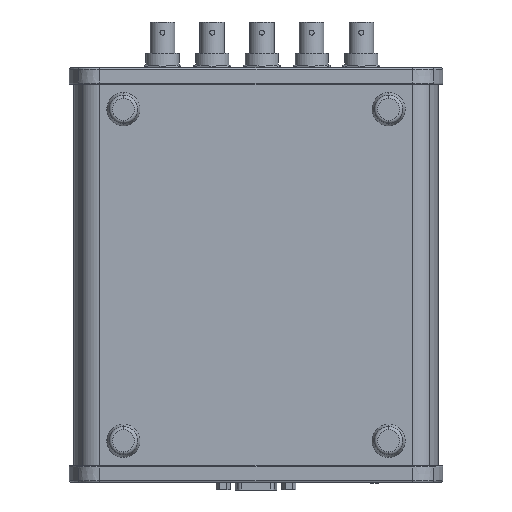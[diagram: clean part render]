
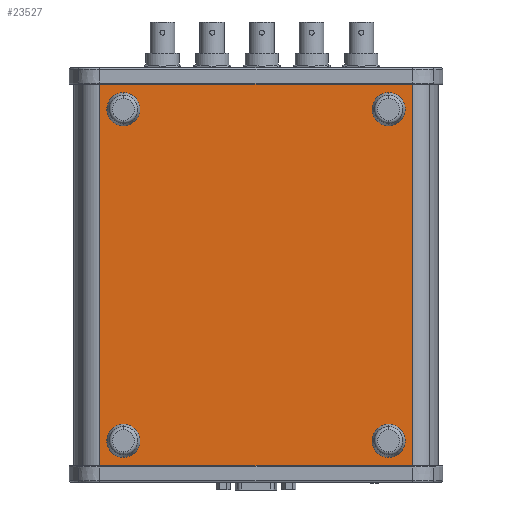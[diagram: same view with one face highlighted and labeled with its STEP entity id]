
A CAD part, front view. The second image highlights one B-rep face of the part: STEP entity #23527.
In plain terms, the highlighted planar face has unit normal (0, -1, 0).
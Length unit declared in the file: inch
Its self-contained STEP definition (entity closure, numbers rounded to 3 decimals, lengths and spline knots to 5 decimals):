
#3229=DIRECTION('',(1.,0.,0.));
#3230=VECTOR('',#3229,4.71985);
#3231=CARTESIAN_POINT('',(-2.35992,-0.6435,0.));
#3232=LINE('',#3231,#3230);
#3344=DIRECTION('',(1.,0.,0.));
#3345=VECTOR('',#3344,4.71985);
#3346=CARTESIAN_POINT('',(-2.35992,-0.6435,6.));
#3347=LINE('',#3346,#3345);
#3476=DIRECTION('',(0.,0.,-1.));
#3477=VECTOR('',#3476,6.);
#3478=CARTESIAN_POINT('',(2.35992,-0.6435,6.));
#3479=LINE('',#3478,#3477);
#3480=DIRECTION('',(0.,0.,-1.));
#3481=VECTOR('',#3480,6.);
#3482=CARTESIAN_POINT('',(-2.35992,-0.6435,6.));
#3483=LINE('',#3482,#3481);
#3484=CARTESIAN_POINT('',(2.,-0.6435,5.5));
#3485=DIRECTION('',(0.,1.,0.));
#3486=DIRECTION('',(0.,0.,1.));
#3487=AXIS2_PLACEMENT_3D('',#3484,#3485,#3486);
#3489=CARTESIAN_POINT('',(2.,-0.6435,5.5));
#3490=DIRECTION('',(0.,1.,0.));
#3491=DIRECTION('',(0.,0.,-1.));
#3492=AXIS2_PLACEMENT_3D('',#3489,#3490,#3491);
#3494=CARTESIAN_POINT('',(2.,-0.6435,0.5));
#3495=DIRECTION('',(0.,1.,0.));
#3496=DIRECTION('',(0.,0.,1.));
#3497=AXIS2_PLACEMENT_3D('',#3494,#3495,#3496);
#3499=CARTESIAN_POINT('',(2.,-0.6435,0.5));
#3500=DIRECTION('',(0.,1.,0.));
#3501=DIRECTION('',(0.,0.,-1.));
#3502=AXIS2_PLACEMENT_3D('',#3499,#3500,#3501);
#3504=CARTESIAN_POINT('',(-2.,-0.6435,5.5));
#3505=DIRECTION('',(0.,1.,0.));
#3506=DIRECTION('',(0.,0.,1.));
#3507=AXIS2_PLACEMENT_3D('',#3504,#3505,#3506);
#3509=CARTESIAN_POINT('',(-2.,-0.6435,5.5));
#3510=DIRECTION('',(0.,1.,0.));
#3511=DIRECTION('',(0.,0.,-1.));
#3512=AXIS2_PLACEMENT_3D('',#3509,#3510,#3511);
#3514=CARTESIAN_POINT('',(-2.,-0.6435,0.5));
#3515=DIRECTION('',(0.,1.,0.));
#3516=DIRECTION('',(0.,0.,1.));
#3517=AXIS2_PLACEMENT_3D('',#3514,#3515,#3516);
#3519=CARTESIAN_POINT('',(-2.,-0.6435,0.5));
#3520=DIRECTION('',(0.,1.,0.));
#3521=DIRECTION('',(0.,0.,-1.));
#3522=AXIS2_PLACEMENT_3D('',#3519,#3520,#3521);
#15255=CARTESIAN_POINT('',(2.35992,-0.6435,0.));
#15257=VERTEX_POINT('',#15255);
#15258=CARTESIAN_POINT('',(2.35992,-0.6435,6.));
#15259=VERTEX_POINT('',#15258);
#15270=CARTESIAN_POINT('',(-2.35992,-0.6435,0.));
#15272=VERTEX_POINT('',#15270);
#15276=CARTESIAN_POINT('',(-2.35992,-0.6435,6.));
#15277=VERTEX_POINT('',#15276);
#17128=CARTESIAN_POINT('',(2.,-0.6435,5.75));
#17129=CARTESIAN_POINT('',(2.,-0.6435,5.25));
#17130=VERTEX_POINT('',#17128);
#17131=VERTEX_POINT('',#17129);
#17140=CARTESIAN_POINT('',(2.,-0.6435,0.75));
#17141=CARTESIAN_POINT('',(2.,-0.6435,0.25));
#17142=VERTEX_POINT('',#17140);
#17143=VERTEX_POINT('',#17141);
#17152=CARTESIAN_POINT('',(-2.,-0.6435,5.75));
#17153=CARTESIAN_POINT('',(-2.,-0.6435,5.25));
#17154=VERTEX_POINT('',#17152);
#17155=VERTEX_POINT('',#17153);
#17164=CARTESIAN_POINT('',(-2.,-0.6435,0.75));
#17165=CARTESIAN_POINT('',(-2.,-0.6435,0.25));
#17166=VERTEX_POINT('',#17164);
#17167=VERTEX_POINT('',#17165);
#23491=CARTESIAN_POINT('',(-2.51545,-0.6435,0.));
#23492=DIRECTION('',(0.,-1.,0.));
#23493=DIRECTION('',(1.,0.,0.));
#23494=AXIS2_PLACEMENT_3D('',#23491,#23492,#23493);
#23495=PLANE('',#23494);
#23496=ORIENTED_EDGE('',*,*,#23484,.T.);
#23497=ORIENTED_EDGE('',*,*,#23218,.F.);
#23499=ORIENTED_EDGE('',*,*,#23498,.F.);
#23500=ORIENTED_EDGE('',*,*,#23283,.T.);
#23501=EDGE_LOOP('',(#23496,#23497,#23499,#23500));
#23502=FACE_OUTER_BOUND('',#23501,.F.);
#23504=ORIENTED_EDGE('',*,*,#23503,.F.);
#23506=ORIENTED_EDGE('',*,*,#23505,.F.);
#23507=EDGE_LOOP('',(#23504,#23506));
#23508=FACE_BOUND('',#23507,.F.);
#23510=ORIENTED_EDGE('',*,*,#23509,.F.);
#23512=ORIENTED_EDGE('',*,*,#23511,.F.);
#23513=EDGE_LOOP('',(#23510,#23512));
#23514=FACE_BOUND('',#23513,.F.);
#23516=ORIENTED_EDGE('',*,*,#23515,.F.);
#23518=ORIENTED_EDGE('',*,*,#23517,.F.);
#23519=EDGE_LOOP('',(#23516,#23518));
#23520=FACE_BOUND('',#23519,.F.);
#23522=ORIENTED_EDGE('',*,*,#23521,.F.);
#23524=ORIENTED_EDGE('',*,*,#23523,.F.);
#23525=EDGE_LOOP('',(#23522,#23524));
#23526=FACE_BOUND('',#23525,.F.);
#23527=ADVANCED_FACE('',(#23502,#23508,#23514,#23520,#23526),#23495,.T.);
#3488=CIRCLE('',#3487,0.25);
#3493=CIRCLE('',#3492,0.25);
#3498=CIRCLE('',#3497,0.25);
#3503=CIRCLE('',#3502,0.25);
#3508=CIRCLE('',#3507,0.25);
#3513=CIRCLE('',#3512,0.25);
#3518=CIRCLE('',#3517,0.25);
#3523=CIRCLE('',#3522,0.25);
#23218=EDGE_CURVE('',#15272,#15257,#3232,.T.);
#23283=EDGE_CURVE('',#15277,#15259,#3347,.T.);
#23484=EDGE_CURVE('',#15259,#15257,#3479,.T.);
#23498=EDGE_CURVE('',#15277,#15272,#3483,.T.);
#23503=EDGE_CURVE('',#17130,#17131,#3488,.T.);
#23505=EDGE_CURVE('',#17131,#17130,#3493,.T.);
#23509=EDGE_CURVE('',#17142,#17143,#3498,.T.);
#23511=EDGE_CURVE('',#17143,#17142,#3503,.T.);
#23515=EDGE_CURVE('',#17154,#17155,#3508,.T.);
#23517=EDGE_CURVE('',#17155,#17154,#3513,.T.);
#23521=EDGE_CURVE('',#17166,#17167,#3518,.T.);
#23523=EDGE_CURVE('',#17167,#17166,#3523,.T.);
